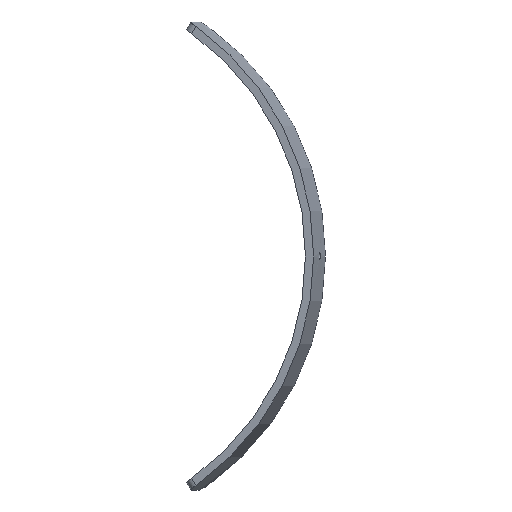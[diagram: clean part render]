
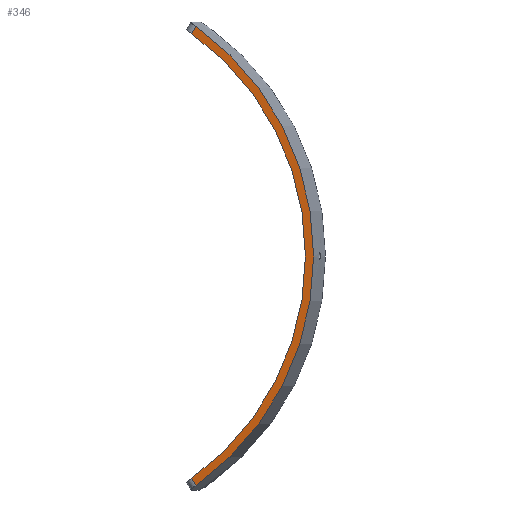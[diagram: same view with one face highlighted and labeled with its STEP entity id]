
A CAD part, front view. The second image highlights one B-rep face of the part: STEP entity #346.
In plain terms, the highlighted planar face has unit normal (-0.233, -0.972, 0).
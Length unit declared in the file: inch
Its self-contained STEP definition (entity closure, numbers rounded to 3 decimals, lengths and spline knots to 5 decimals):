
#18 = DIRECTION ( 'NONE',  ( -0.233, -0.972, 0. ) ) ;
#24 = CARTESIAN_POINT ( 'NONE',  ( 133.22109, -35.0688, 26.34898 ) ) ;
#70 = VERTEX_POINT ( 'NONE', #571 ) ;
#122 = DIRECTION ( 'NONE',  ( -0.972, 0.233, 0. ) ) ;
#129 = DIRECTION ( 'NONE',  ( 0.525, -0.126, -0.842 ) ) ;
#144 = EDGE_CURVE ( 'NONE', #207, #660, #588, .T. ) ;
#148 = ORIENTED_EDGE ( 'NONE', *, *, #639, .T. ) ;
#152 = AXIS2_PLACEMENT_3D ( 'NONE', #461, #749, #691 ) ;
#169 = CARTESIAN_POINT ( 'NONE',  ( 116.44272, -31.04067, -0.54008 ) ) ;
#175 = LINE ( 'NONE', #169, #176 ) ;
#176 = VECTOR ( 'NONE', #179, 39.37008 ) ;
#179 = DIRECTION ( 'NONE',  ( -0.525, 0.126, -0.842 ) ) ;
#182 = EDGE_LOOP ( 'NONE', ( #148, #595, #524, #237 ) ) ;
#207 = VERTEX_POINT ( 'NONE', #502 ) ;
#227 = DIRECTION ( 'NONE',  ( 0.233, 0.972, 0. ) ) ;
#237 = ORIENTED_EDGE ( 'NONE', *, *, #631, .T. ) ;
#296 = CARTESIAN_POINT ( 'NONE',  ( 116.44272, -31.04067, 0.54008 ) ) ;
#305 = CIRCLE ( 'NONE', #603, 31.965 ) ;
#346 = ADVANCED_FACE ( 'NONE', ( #667 ), #364, .T. ) ;
#364 = PLANE ( 'NONE',  #578 ) ;
#375 = CARTESIAN_POINT ( 'NONE',  ( 115.62436, -30.8442, 0. ) ) ;
#381 = VECTOR ( 'NONE', #129, 39.37008 ) ;
#405 = CIRCLE ( 'NONE', #152, 32.965 ) ;
#461 = CARTESIAN_POINT ( 'NONE',  ( 115.62436, -30.8442, 0. ) ) ;
#502 = CARTESIAN_POINT ( 'NONE',  ( 133.22109, -35.0688, -26.34898 ) ) ;
#524 = ORIENTED_EDGE ( 'NONE', *, *, #627, .F. ) ;
#532 = DIRECTION ( 'NONE',  ( 0.972, -0.233, 0. ) ) ;
#571 = CARTESIAN_POINT ( 'NONE',  ( 133.74649, -35.19494, 27.191 ) ) ;
#578 = AXIS2_PLACEMENT_3D ( 'NONE', #375, #18, #532 ) ;
#588 = LINE ( 'NONE', #296, #381 ) ;
#595 = ORIENTED_EDGE ( 'NONE', *, *, #144, .T. ) ;
#603 = AXIS2_PLACEMENT_3D ( 'NONE', #646, #227, #122 ) ;
#608 = CARTESIAN_POINT ( 'NONE',  ( 133.74649, -35.19494, -27.191 ) ) ;
#627 = EDGE_CURVE ( 'NONE', #70, #660, #405, .T. ) ;
#631 = EDGE_CURVE ( 'NONE', #70, #654, #175, .T. ) ;
#639 = EDGE_CURVE ( 'NONE', #654, #207, #305, .T. ) ;
#646 = CARTESIAN_POINT ( 'NONE',  ( 115.62436, -30.8442, 0. ) ) ;
#654 = VERTEX_POINT ( 'NONE', #24 ) ;
#660 = VERTEX_POINT ( 'NONE', #608 ) ;
#667 = FACE_OUTER_BOUND ( 'NONE', #182, .T. ) ;
#691 = DIRECTION ( 'NONE',  ( -0.972, 0.233, 0. ) ) ;
#749 = DIRECTION ( 'NONE',  ( 0.233, 0.972, 0. ) ) ;
